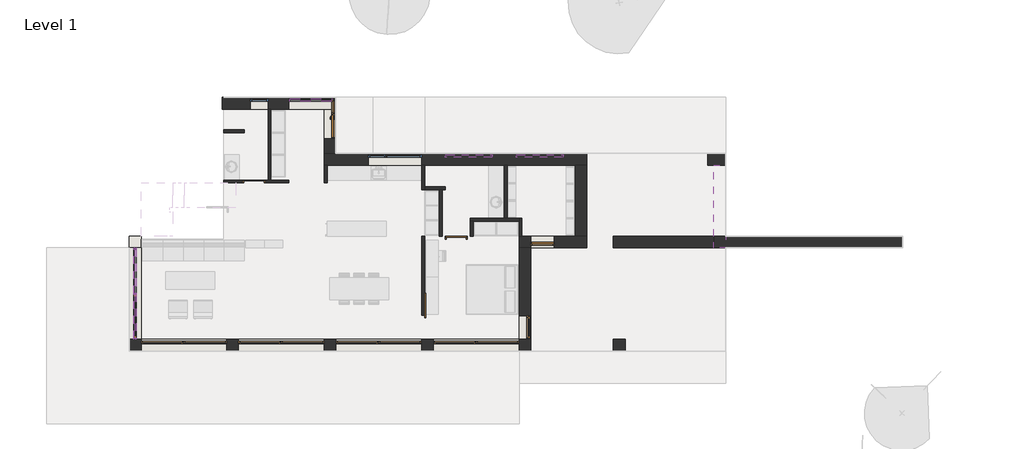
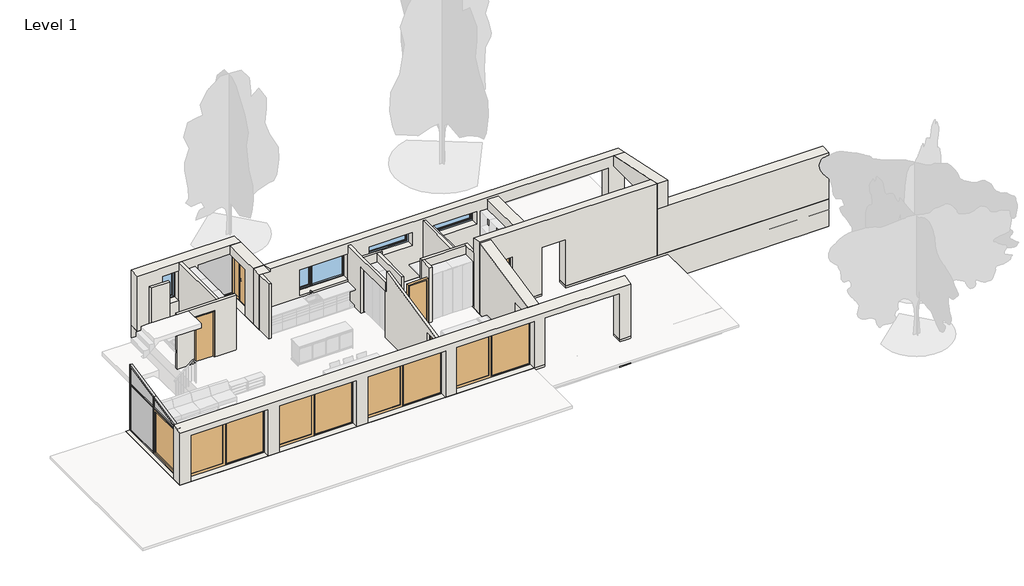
# One storey, part 1 of 2: 31 walls, 16 members, 11 doors, 5 plates, 4 windows.
"""IFC4 building model written with IfcOpenShell, lengths in millimetres."""

from ifc_helpers import new_model, si_unit, frame, origin, origin_with_axes, place, context, project, spatial, polyline, outline, extrude, faceted_brep, transform, mapped, element, save
from components import door_1560x2200_mm_08e78651, cw_ext_sliding_door_glass_cw_ext_sliding_door_glass_fc66a621, ext_single_flush_960x2200_mm_918893a4, ext_single_flush_out_glass_960x2200_mm_15830432, ext_sliding_door_window_assembly_glass_3480x2200_mm_6c81b4e4, int_single_flush_900x2200_mm_58b118df, int_single_flush_900x2200_mm_8e8544e1, int_sliding_door_on_wall_m9_x22_8b50374d, rectangular_mullion_exterior_115x115mm_a364345c, rectangular_mullion_exterior_50x115mm_2cea3e43, rectangular_mullion_exterior_50x115mm_d26d7a7f, rectangular_mullion_exterior_50x115mm_66d0e140, rectangular_mullion_exterior_50x115mm_0bbc0ca7, rectangular_mullion_exterior_50x115mm_4f10aaa5, rectangular_mullion_exterior_50x115mm_637f70d5, rectangular_mullion_exterior_50x115mm_56454b0a, rectangular_mullion_exterior_50x115mm_14035550, rectangular_mullion_exterior_50x115mm_69c7e964, rectangular_mullion_exterior_50x115mm_8fb64012, empty_system_panel_empty_d53b2e3b, system_panel_exterior_glass_22mm_2c8f2951, system_panel_exterior_glass_22mm_213b490c, system_panel_exterior_glass_22mm_7220da71, system_panel_exterior_glass_22mm_7fe7f60a, single_light_720x1400_mm_b30d6d94, single_light_top_hung_1920x600_mm_50622a2d, window_assembly_individual_2160x1200_mm_64654f8e

model = new_model("IFC4")

# Units and contexts
model_context = context("Model", 3, world=origin())
ifc_project = project(units=[si_unit("LENGTHUNIT", "METRE", prefix="MILLI")], contexts=[model_context])

# Site, building, storey
site = spatial("IfcSite", under=ifc_project)
building = spatial("IfcBuilding", under=site)
storey = spatial("IfcBuildingStorey", under=building, Name="Level 1", Elevation=0.0)

# Doors
placement = place(None, origin())
door_1560x2200_mm_shape = door_1560x2200_mm_08e78651(model_context)
element("IfcDoor", 1, ObjectType="Ext. Door inw. Window Assembly : 1560x2200 mm", at=placement, inside=storey, context=model_context, shape_type="MappedRepresentation", body=[
    mapped(door_1560x2200_mm_shape, transform((12120.0, 9060.0, 0.0), x_axis=(0.0, -1.0, 0.0), y_axis=(1.0, 0.0, 0.0), z_axis=(0.0, 0.0, 1.0))),
])
cw_ext_sliding_door_glass_cw_ext_sliding_door_glass_shape = cw_ext_sliding_door_glass_cw_ext_sliding_door_glass_fc66a621(model_context)
element("IfcDoor", 2, ObjectType="CW Ext. Sliding Door - Glass : CW Ext. Sliding Door - Glass", at=placement, inside=storey, context=model_context, shape_type="MappedRepresentation", body=[
    mapped(cw_ext_sliding_door_glass_cw_ext_sliding_door_glass_shape, transform((4140.0, 1062.5, 50.0), x_axis=(0.0, 1.0, 0.0), y_axis=(-1.0, 0.0, 0.0), z_axis=(0.0, 0.0, 1.0))),
])
ext_single_flush_960x2200_mm_shape = ext_single_flush_960x2200_mm_918893a4(model_context)
element("IfcDoor", 3, ObjectType="Ext. Single-Flush : 960x2200 mm", at=placement, inside=storey, context=model_context, shape_type="MappedRepresentation", body=[
    mapped(ext_single_flush_960x2200_mm_shape, transform((20760.0, 4080.0, 0.0), x_axis=(-1.0, 0.0, 0.0), y_axis=(0.0, -1.0, 0.0), z_axis=(0.0, 0.0, 1.0))),
])
ext_single_flush_out_glass_960x2200_mm_shape = ext_single_flush_out_glass_960x2200_mm_15830432(model_context)
element("IfcDoor", 4, ObjectType="Ext. Single-Flush out - Glass : 960x2200 mm", at=placement, inside=storey, context=model_context, shape_type="MappedRepresentation", body=[
    mapped(ext_single_flush_out_glass_960x2200_mm_shape, transform((20040.0, 600.0, 0.0), x_axis=(0.0, -1.0, 0.0), y_axis=(1.0, 0.0, 0.0), z_axis=(0.0, 0.0, 1.0))),
])
ext_sliding_door_window_assembly_glass_3480x2200_mm_shape = ext_sliding_door_window_assembly_glass_3480x2200_mm_6c81b4e4(model_context)
element("IfcDoor", 5, ObjectType="Ext. Sliding Door Window Assembly - Glass : 3480x2200 mm", at=placement, inside=storey, context=model_context, shape_type="MappedRepresentation", body=[
    mapped(ext_sliding_door_window_assembly_glass_3480x2200_mm_shape, transform((10140.0, -120.0, 0.0), x_axis=(-1.0, 0.0, 0.0), y_axis=(0.0, -1.0, 0.0), z_axis=(0.0, 0.0, 1.0))),
])
element("IfcDoor", 6, ObjectType="Ext. Sliding Door Window Assembly - Glass : 3480x2200 mm", at=placement, inside=storey, context=model_context, shape_type="MappedRepresentation", body=[
    mapped(ext_sliding_door_window_assembly_glass_3480x2200_mm_shape, transform((6180.0, -120.0, 0.0), x_axis=(-1.0, 0.0, 0.0), y_axis=(0.0, -1.0, 0.0), z_axis=(0.0, 0.0, 1.0))),
])
element("IfcDoor", 7, ObjectType="Ext. Sliding Door Window Assembly - Glass : 3480x2200 mm", at=placement, inside=storey, context=model_context, shape_type="MappedRepresentation", body=[
    mapped(ext_sliding_door_window_assembly_glass_3480x2200_mm_shape, transform((14100.0, -120.0, 0.0), x_axis=(-1.0, 0.0, 0.0), y_axis=(0.0, -1.0, 0.0), z_axis=(0.0, 0.0, 1.0))),
])
element("IfcDoor", 8, ObjectType="Ext. Sliding Door Window Assembly - Glass : 3480x2200 mm", at=placement, inside=storey, context=model_context, shape_type="MappedRepresentation", body=[
    mapped(ext_sliding_door_window_assembly_glass_3480x2200_mm_shape, transform((18060.0, -120.0, 0.0), x_axis=(-1.0, 0.0, 0.0), y_axis=(0.0, -1.0, 0.0), z_axis=(0.0, 0.0, 1.0))),
])
int_single_flush_900x2200_mm_shape = int_single_flush_900x2200_mm_58b118df(model_context)
element("IfcDoor", 9, ObjectType="Int. Single-Flush : 900x2200 mm", at=placement, inside=storey, context=model_context, shape_type="MappedRepresentation", body=[
    mapped(int_single_flush_900x2200_mm_shape, transform((9030.0, 6540.0, 0.0), x_axis=(1.0, 0.0, 0.0), y_axis=(0.0, 1.0, 0.0), z_axis=(0.0, 0.0, 1.0))),
])
int_single_flush_900x2200_mm_2_shape = int_single_flush_900x2200_mm_8e8544e1(model_context)
element("IfcDoor", 10, ObjectType="Int. Single-Flush : 900x2200 mm", at=placement, inside=storey, context=model_context, shape_type="MappedRepresentation", body=[
    mapped(int_single_flush_900x2200_mm_2_shape, transform((17250.0, 4260.0, 0.0), x_axis=(-1.0, 0.0, 0.0), y_axis=(0.0, -1.0, 0.0), z_axis=(0.0, 0.0, 1.0))),
])
int_sliding_door_on_wall_m9_x22_shape = int_sliding_door_on_wall_m9_x22_8b50374d(model_context)
element("IfcDoor", 11, ObjectType="Int. Sliding Door on wall : M9 x22", at=placement, inside=storey, context=model_context, shape_type="MappedRepresentation", body=[
    mapped(int_sliding_door_on_wall_m9_x22_shape, transform((15850.0, 624.0, 0.0), x_axis=(0.0, -1.0, 0.0), y_axis=(1.0, 0.0, 0.0), z_axis=(0.0, 0.0, 1.0))),
])

# Members
rectangular_mullion_exterior_115x115mm_shape = rectangular_mullion_exterior_115x115mm_a364345c(model_context)
element("IfcMember", 12, ObjectType="Rectangular Mullion : Exterior - 115x115mm", at=placement, inside=storey, context=model_context, shape_type="MappedRepresentation", body=[
    mapped(rectangular_mullion_exterior_115x115mm_shape, transform((12252.5, 9910.0, 0.0), x_axis=(1.0, 0.0, 0.0), y_axis=(0.0, -1.0, 0.0), z_axis=(0.0, 0.0, -1.0))),
])
rectangular_mullion_exterior_50x115mm_shape = rectangular_mullion_exterior_50x115mm_2cea3e43(model_context)
element("IfcMember", 13, ObjectType="Rectangular Mullion : Exterior - 50x115mm", at=placement, inside=storey, context=model_context, shape_type="MappedRepresentation", body=[
    mapped(rectangular_mullion_exterior_50x115mm_shape, transform((4140.0, 3840.0, 0.0), x_axis=(0.0, 1.0, 0.0), y_axis=(1.0, 0.0, 0.0), z_axis=(0.0, 0.0, -1.0))),
])
element("IfcMember", 14, ObjectType="Rectangular Mullion : Exterior - 50x115mm", at=placement, inside=storey, context=model_context, shape_type="MappedRepresentation", body=[
    mapped(rectangular_mullion_exterior_50x115mm_shape, transform((4140.0, 120.0, 2200.0), x_axis=(0.0, -1.0, 0.0), y_axis=(1.0, 0.0, 0.0), z_axis=(0.0, 0.0, 1.0))),
])
rectangular_mullion_exterior_50x115mm_2_shape = rectangular_mullion_exterior_50x115mm_d26d7a7f(model_context)
element("IfcMember", 15, ObjectType="Rectangular Mullion : Exterior - 50x115mm", at=placement, inside=storey, context=model_context, shape_type="MappedRepresentation", body=[
    mapped(rectangular_mullion_exterior_50x115mm_2_shape, transform((4140.0, 1980.0, 50.0), x_axis=(0.0, 1.0, 0.0), y_axis=(1.0, 0.0, 0.0), z_axis=(0.0, 0.0, -1.0))),
])
element("IfcMember", 16, ObjectType="Rectangular Mullion : Exterior - 50x115mm", at=placement, inside=storey, context=model_context, shape_type="MappedRepresentation", body=[
    mapped(rectangular_mullion_exterior_50x115mm_shape, transform((10440.0, 9910.0, 2200.0), x_axis=(-1.0, 0.0, 0.0), y_axis=(0.0, -1.0, 0.0), z_axis=(0.0, 0.0, 1.0))),
])
rectangular_mullion_exterior_50x115mm_3_shape = rectangular_mullion_exterior_50x115mm_66d0e140(model_context)
element("IfcMember", 17, ObjectType="Rectangular Mullion : Exterior - 50x115mm", at=placement, inside=storey, context=model_context, shape_type="MappedRepresentation", body=[
    mapped(rectangular_mullion_exterior_50x115mm_3_shape, transform((12195.0, 9910.0, 2200.0), x_axis=(0.0, 0.0, 1.0), y_axis=(0.0, -1.0, 0.0), z_axis=(1.0, 0.0, 0.0))),
])
element("IfcMember", 18, ObjectType="Rectangular Mullion : Exterior - 50x115mm", at=placement, inside=storey, context=model_context, shape_type="MappedRepresentation", body=[
    mapped(rectangular_mullion_exterior_50x115mm_3_shape, transform((10490.0, 9910.0, 0.0), x_axis=(0.0, 0.0, -1.0), y_axis=(0.0, -1.0, 0.0), z_axis=(-1.0, 0.0, 0.0))),
])
rectangular_mullion_exterior_50x115mm_4_shape = rectangular_mullion_exterior_50x115mm_0bbc0ca7(model_context)
element("IfcMember", 19, ObjectType="Rectangular Mullion : Exterior - 50x115mm", at=placement, inside=storey, context=model_context, shape_type="MappedRepresentation", body=[
    mapped(rectangular_mullion_exterior_50x115mm_4_shape, transform((4140.0, 1980.0, 0.0), x_axis=(0.0, 0.0, -1.0), y_axis=(1.0, 0.0, 0.0), z_axis=(0.0, -1.0, 0.0))),
])
element("IfcMember", 20, ObjectType="Rectangular Mullion : Exterior - 50x115mm", at=placement, inside=storey, context=model_context, shape_type="MappedRepresentation", body=[
    mapped(rectangular_mullion_exterior_50x115mm_4_shape, transform((4140.0, 170.0, 0.0), x_axis=(0.0, 0.0, -1.0), y_axis=(1.0, 0.0, 0.0), z_axis=(0.0, -1.0, 0.0))),
])
rectangular_mullion_exterior_50x115mm_5_shape = rectangular_mullion_exterior_50x115mm_4f10aaa5(model_context)
element("IfcMember", 21, ObjectType="Rectangular Mullion : Exterior - 50x115mm", at=placement, inside=storey, context=model_context, shape_type="MappedRepresentation", body=[
    mapped(rectangular_mullion_exterior_50x115mm_5_shape, transform((4140.0, 1955.0, 2200.0), x_axis=(0.0, 0.0, 1.0), y_axis=(1.0, 0.0, 0.0), z_axis=(0.0, 1.0, 0.0))),
])
element("IfcMember", 22, ObjectType="Rectangular Mullion : Exterior - 50x115mm", at=placement, inside=storey, context=model_context, shape_type="MappedRepresentation", body=[
    mapped(rectangular_mullion_exterior_50x115mm_5_shape, transform((4140.0, 3790.0, 2200.0), x_axis=(0.0, 0.0, 1.0), y_axis=(1.0, 0.0, 0.0), z_axis=(0.0, 1.0, 0.0))),
])
rectangular_mullion_exterior_50x115mm_6_shape = rectangular_mullion_exterior_50x115mm_637f70d5(model_context)
element("IfcMember", 23, ObjectType="Rectangular Mullion : Exterior - 50x115mm", at=placement, inside=storey, context=model_context, shape_type="MappedRepresentation", body=[
    mapped(rectangular_mullion_exterior_50x115mm_6_shape, transform((4140.0, 1980.0, 2200.0), x_axis=(0.0, 1.0, 0.0), y_axis=(1.0, 0.0, 0.0), z_axis=(0.0, 0.0, -1.0))),
])
rectangular_mullion_exterior_50x115mm_7_shape = rectangular_mullion_exterior_50x115mm_56454b0a(model_context)
element("IfcMember", 24, ObjectType="Rectangular Mullion : Exterior - 50x115mm", at=placement, inside=storey, context=model_context, shape_type="MappedRepresentation", body=[
    mapped(rectangular_mullion_exterior_50x115mm_7_shape, transform((4140.0, 1980.0, 2711.8424549), x_axis=(0.0, -0.20791169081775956, 0.9781476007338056), y_axis=(1.0, 0.0, 0.0), z_axis=(0.0, 0.9781476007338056, 0.20791169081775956))),
])
rectangular_mullion_exterior_50x115mm_8_shape = rectangular_mullion_exterior_50x115mm_14035550(model_context)
element("IfcMember", 25, ObjectType="Rectangular Mullion : Exterior - 50x115mm", at=placement, inside=storey, context=model_context, shape_type="MappedRepresentation", body=[
    mapped(rectangular_mullion_exterior_50x115mm_8_shape, transform((4140.0, 3840.0, 3107.1976596), x_axis=(0.0, -0.2079116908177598, 0.9781476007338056), y_axis=(1.0, 0.0, 0.0), z_axis=(0.0, 0.9781476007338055, 0.20791169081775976))),
])
rectangular_mullion_exterior_50x115mm_9_shape = rectangular_mullion_exterior_50x115mm_69c7e964(model_context)
element("IfcMember", 26, ObjectType="Rectangular Mullion : Exterior - 50x115mm", at=placement, inside=storey, context=model_context, shape_type="MappedRepresentation", body=[
    mapped(rectangular_mullion_exterior_50x115mm_9_shape, transform((4140.0, 120.0, 2316.4872502), x_axis=(0.0, -1.0, 0.0), y_axis=(1.0, 0.0, 0.0), z_axis=(0.0, 0.0, 1.0))),
])
rectangular_mullion_exterior_50x115mm_10_shape = rectangular_mullion_exterior_50x115mm_8fb64012(model_context)
element("IfcMember", 27, ObjectType="Rectangular Mullion : Exterior - 50x115mm", at=placement, inside=storey, context=model_context, shape_type="MappedRepresentation", body=[
    mapped(rectangular_mullion_exterior_50x115mm_10_shape, transform((4140.0, 3840.0, 2200.0), x_axis=(0.0, 1.0, 0.0), y_axis=(1.0, 0.0, 0.0), z_axis=(0.0, 0.0, -1.0))),
])

# Plates
empty_system_panel_empty_shape = empty_system_panel_empty_d53b2e3b(model_context)
element("IfcPlate", 28, ObjectType="Empty System Panel : Empty", at=placement, inside=storey, context=model_context, shape_type="MappedRepresentation", body=[
    mapped(empty_system_panel_empty_shape, transform((12335.0, 9910.0, 0.0), x_axis=(1.0, 0.0, 0.0), y_axis=(0.0, 1.0, 0.0), z_axis=(0.0, 0.0, 1.0))),
])
system_panel_exterior_glass_22mm_shape = system_panel_exterior_glass_22mm_2c8f2951(model_context)
element("IfcPlate", 29, ObjectType="System Panel : Exterior - Glass 22mm", at=placement, inside=storey, context=model_context, shape_type="MappedRepresentation", body=[
    mapped(system_panel_exterior_glass_22mm_shape, transform((11342.5, 9910.0, 50.0), x_axis=(1.0, 0.0, 0.0), y_axis=(0.0, 1.0, 0.0), z_axis=(0.0, 0.0, 1.0))),
])
system_panel_exterior_glass_22mm_2_shape = system_panel_exterior_glass_22mm_213b490c(model_context)
element("IfcPlate", 30, ObjectType="System Panel : Exterior - Glass 22mm", at=placement, inside=storey, context=model_context, shape_type="MappedRepresentation", body=[
    mapped(system_panel_exterior_glass_22mm_2_shape, transform((4140.0, 1062.5, 2225.0), x_axis=(0.0, 1.0, 0.0), y_axis=(-1.0, 0.0, 0.0), z_axis=(0.0, 0.0, 1.0))),
])
system_panel_exterior_glass_22mm_3_shape = system_panel_exterior_glass_22mm_7220da71(model_context)
element("IfcPlate", 31, ObjectType="System Panel : Exterior - Glass 22mm", at=placement, inside=storey, context=model_context, shape_type="MappedRepresentation", body=[
    mapped(system_panel_exterior_glass_22mm_3_shape, transform((4140.0, 2897.5, 50.0), x_axis=(0.0, 1.0, 0.0), y_axis=(-1.0, 0.0, 0.0), z_axis=(0.0, 0.0, 1.0))),
])
system_panel_exterior_glass_22mm_4_shape = system_panel_exterior_glass_22mm_7fe7f60a(model_context)
element("IfcPlate", 32, ObjectType="System Panel : Exterior - Glass 22mm", at=placement, inside=storey, context=model_context, shape_type="MappedRepresentation", body=[
    mapped(system_panel_exterior_glass_22mm_4_shape, transform((4140.0, 2897.5, 2225.0), x_axis=(0.0, 1.0, 0.0), y_axis=(-1.0, 0.0, 0.0), z_axis=(0.0, 0.0, 1.0))),
])

# Walls
element("IfcWall", 33, ObjectType="Generic - 120mm (Interior)", at=placement, inside=storey, context=model_context, shape_type="Brep", body=[
    faceted_brep([(9720.0, 6600.0, 0.0), (9720.0, 9480.0, 0.0), (9720.0, 9480.0, 2600.0), (9720.0, 6600.0, 2600.0), (9600.0, 6600.0, 0.0), (9600.0, 6600.0, 2600.0), (9600.0, 9480.0, 2600.0), (9600.0, 9480.0, 2200.0), (9600.0, 9480.0, 800.0), (9600.0, 9480.0, 0.0)], [[[0, 1, 2, 3]], [[4, 5, 6, 7, 8, 9]], [[1, 0, 4, 9]], [[3, 2, 6, 5]], [[2, 1, 9, 8, 7, 6]], [[0, 3, 5, 4]]]),
])
element("IfcWall", 34, ObjectType="Generic - 120mm (Interior)", at=placement, inside=storey, context=model_context, shape_type="Brep", body=[
    faceted_brep([(15960.0, 7200.0, 0.0), (15960.0, 7200.0, 2600.0), (15960.0, 6320.0, 2600.0), (15960.0, 6200.0, 2600.0), (15960.0, 4320.0, 2600.0), (15960.0, 4320.0, 2200.0), (15960.0, 6200.0, 2200.0), (15960.0, 6200.0, 0.0), (15960.0, 6320.0, 0.0), (15960.0, 120.0, 2212.0), (15960.0, 1104.0, 2212.0), (15960.0, 1104.0, 0.0), (15960.0, 4200.0, 0.0), (15960.0, 4320.0, 0.0), (15960.0, 4200.0, 2200.0), (15960.0, 4200.0, 3183.7180218), (15960.0, 120.0, 2316.4872502), (15840.0, 7200.0, 2600.0), (15840.0, 7200.0, 2200.0), (15840.0, 7200.0, 1000.0), (15840.0, 7200.0, 0.0), (15840.0, 6200.0, 0.0), (15840.0, 6200.0, 2200.0), (15840.0, 4320.0, 2200.0), (15840.0, 4320.0, 2600.0), (15840.0, 4320.0, 0.0), (15840.0, 1104.0, 0.0), (15840.0, 1104.0, 2212.0), (15840.0, 120.0, 2212.0), (15840.0, 120.0, 2316.4872502), (15840.0, 4200.0, 3183.7180218), (15840.0, 4200.0, 2200.0)], [[[0, 1, 2, 3, 4, 5, 6, 7, 8]], [[9, 10, 11, 12, 13, 5, 14, 15, 16]], [[17, 18, 19, 20, 21, 22, 23, 24]], [[25, 26, 27, 28, 29, 30, 31, 23]], [[1, 0, 20, 19, 18, 17]], [[27, 10, 9, 28]], [[10, 27, 26, 11]], [[9, 16, 29, 28]], [[23, 5, 4, 24]], [[5, 23, 31, 14]], [[26, 25, 13, 12, 11]], [[6, 5, 23, 22]], [[0, 8, 7, 21, 20]], [[5, 13, 25, 23]], [[7, 6, 22, 21]], [[1, 17, 24, 4, 3, 2]], [[30, 15, 14, 31]], [[29, 16, 15, 30]]]),
])
element("IfcWall", 35, ObjectType="Generic - 120mm (Interior)", at=placement, inside=storey, context=model_context, shape_type="Brep", body=[
    faceted_brep([(19800.0, 5040.0, 0.0), (19800.0, 4920.0, 0.0), (19800.0, 4320.0, 0.0), (19800.0, 4320.0, 2600.0), (19800.0, 4920.0, 2600.0), (19800.0, 5040.0, 2600.0), (19920.0, 5040.0, 0.0), (19920.0, 5040.0, 2600.0), (19920.0, 4320.0, 2600.0), (19920.0, 4320.0, 0.0)], [[[0, 1, 2, 3, 4, 5]], [[6, 7, 8, 9]], [[2, 1, 0, 6, 9]], [[5, 4, 3, 8, 7]], [[3, 2, 9, 8]], [[0, 5, 7, 6]]]),
])
element("IfcWall", 36, ObjectType="Generic - 120mm (Interior)", at=placement, inside=storey, context=model_context, shape_type="SweptSolid", body=[
    extrude(outline(polyline([(19320.0, 7200.0), (19320.0, 5040.0), (19200.0, 5040.0), (19200.0, 7200.0), (19320.0, 7200.0)])), origin_with_axes(), (0.0, 0.0, 1.0), 2600.0),
])
element("IfcWall", 37, ObjectType="Generic - 120mm (Interior)", at=placement, inside=storey, context=model_context, shape_type="SweptSolid", body=[
    extrude(outline(polyline([(8640.0, 8520.0), (7800.0, 8520.0), (7800.0, 8640.0), (8640.0, 8640.0), (8640.0, 8520.0)])), origin_with_axes(), (0.0, 0.0, 1.0), 2600.0),
])
element("IfcWall", 38, ObjectType="Generic - 120mm (Interior)", at=placement, inside=storey, context=model_context, shape_type="SweptSolid", body=[
    extrude(outline(polyline([(11880.0, 6480.0), (11880.0, 7200.0), (12000.0, 7200.0), (12000.0, 6480.0), (11880.0, 6480.0)])), origin_with_axes(), (0.0, 0.0, 1.0), 2600.0),
])
element("IfcWall", 39, ObjectType="Generic - 120mm (Interior)", at=placement, inside=storey, context=model_context, shape_type="Brep", body=[
    faceted_brep([(10440.0, 6480.0, 0.0), (10440.0, 6480.0, 2600.0), (8400.0, 6480.0, 2600.0), (7800.0, 6480.0, 2600.0), (7800.0, 6480.0, 2000.0), (7800.0, 6480.0, 1700.0), (7800.0, 6480.0, 0.0), (8580.0, 6480.0, 0.0), (8580.0, 6480.0, 2200.0), (9480.0, 6480.0, 2200.0), (9480.0, 6480.0, 0.0), (10440.0, 6600.0, 2600.0), (10440.0, 6600.0, 0.0), (9720.0, 6600.0, 0.0), (9600.0, 6600.0, 0.0), (9480.0, 6600.0, 0.0), (9480.0, 6600.0, 2200.0), (8580.0, 6600.0, 2200.0), (8580.0, 6600.0, 0.0), (7800.0, 6600.0, 0.0), (7800.0, 6600.0, 1700.0), (7800.0, 6600.0, 2000.0), (7800.0, 6600.0, 2600.0), (8400.0, 6600.0, 2600.0), (9600.0, 6600.0, 2600.0), (9720.0, 6600.0, 2600.0)], [[[0, 1, 2, 3, 4, 5, 6, 7, 8, 9, 10]], [[11, 12, 13, 14, 15, 16, 17, 18, 19, 20, 21, 22, 23, 24, 25]], [[12, 0, 10, 15, 14, 13]], [[6, 19, 18, 7]], [[1, 0, 12, 11]], [[3, 2, 1, 11, 25, 24, 23, 22]], [[9, 16, 15, 10]], [[16, 9, 8, 17]], [[17, 8, 7, 18]], [[19, 6, 5, 4, 3, 22, 21, 20]]]),
])
element("IfcWall", 40, ObjectType="Generic - 120mm (Interior)", at=placement, inside=storey, context=model_context, shape_type="Brep", body=[
    faceted_brep([(19800.0, 5040.0, 0.0), (19320.0, 5040.0, 0.0), (19200.0, 5040.0, 0.0), (17820.0, 5040.0, 0.0), (17820.0, 5040.0, 2600.0), (19200.0, 5040.0, 2600.0), (19320.0, 5040.0, 2600.0), (19800.0, 5040.0, 2600.0), (19800.0, 4920.0, 0.0), (19800.0, 4920.0, 2600.0), (17940.0, 4920.0, 2600.0), (17820.0, 4920.0, 2600.0), (17820.0, 4920.0, 0.0), (17940.0, 4920.0, 0.0)], [[[0, 1, 2, 3, 4, 5, 6, 7]], [[8, 9, 10, 11, 12, 13]], [[3, 2, 1, 0, 8, 13, 12]], [[7, 6, 5, 4, 11, 10, 9]], [[0, 7, 9, 8]], [[4, 3, 12, 11]]]),
])
element("IfcWall", 41, ObjectType="Generic - 120mm (Interior)", at=placement, inside=storey, context=model_context, shape_type="Brep", body=[
    faceted_brep([(17820.0, 4920.0, 0.0), (17820.0, 4320.0, 0.0), (17820.0, 4320.0, 2600.0), (17820.0, 4920.0, 2600.0), (17940.0, 4920.0, 0.0), (17940.0, 4920.0, 2600.0), (17940.0, 4320.0, 2600.0), (17940.0, 4320.0, 2200.0), (17940.0, 4320.0, 0.0)], [[[0, 1, 2, 3]], [[4, 5, 6, 7, 8]], [[1, 0, 4, 8]], [[3, 2, 6, 5]], [[0, 3, 5, 4]], [[1, 8, 7, 6, 2]]]),
])
element("IfcWall", 42, ObjectType="Generic - 120mm (Interior)", at=placement, inside=storey, context=model_context, shape_type="SweptSolid", body=[
    extrude(outline(polyline([(16680.0, 6200.0), (16680.0, 4320.0), (16560.0, 4320.0), (16560.0, 6200.0), (16680.0, 6200.0)])), origin_with_axes(), (0.0, 0.0, 1.0), 2600.0),
])
element("IfcWall", 43, ObjectType="Generic - 120mm (Interior)", at=placement, inside=storey, context=model_context, shape_type="Brep", body=[
    faceted_brep([(15960.0, 6200.0, 2600.0), (15960.0, 6200.0, 2200.0), (15960.0, 6200.0, 0.0), (16560.0, 6200.0, 0.0), (16680.0, 6200.0, 0.0), (16800.0, 6200.0, 0.0), (16800.0, 6200.0, 2600.0), (16680.0, 6200.0, 2600.0), (16560.0, 6200.0, 2600.0), (15960.0, 6320.0, 0.0), (15960.0, 6320.0, 2600.0), (16800.0, 6320.0, 2600.0), (16800.0, 6320.0, 0.0)], [[[0, 1, 2, 3, 4, 5, 6, 7, 8]], [[9, 10, 11, 12]], [[5, 4, 3, 2, 9, 12]], [[6, 5, 12, 11]], [[0, 8, 7, 6, 11, 10]], [[0, 10, 9, 2, 1]]]),
])
element("IfcWall", 44, ObjectType="Generic - 480mm (Exterior)", at=placement, inside=storey, context=model_context, shape_type="Brep", body=[
    faceted_brep([(11880.0, 7680.0, 2600.0), (11880.0, 8280.0, 2600.0), (11880.0, 9480.0, 2600.0), (11880.0, 9480.0, 2200.0), (11880.0, 8280.0, 2200.0), (11880.0, 8280.0, 0.0), (11880.0, 7680.0, 0.0), (12360.0, 9480.0, 2600.0), (12360.0, 8280.0, 2600.0), (12360.0, 7680.0, 2600.0), (12360.0, 7680.0, 0.0), (12360.0, 8280.0, 0.0), (12360.0, 8280.0, 2200.0), (12360.0, 9480.0, 2200.0)], [[[0, 1, 2, 3, 4, 5, 6]], [[7, 8, 9, 10, 11, 12, 13]], [[10, 6, 5, 11]], [[2, 1, 0, 9, 8, 7]], [[2, 7, 13, 3]], [[0, 6, 10, 9]], [[12, 4, 3, 13]], [[4, 12, 11, 5]]]),
])
element("IfcWall", 45, ObjectType="Generic - 480mm (Exterior)", at=placement, inside=storey, context=model_context, shape_type="Brep", body=[
    faceted_brep([(22080.0, 7200.0, 2600.0), (22080.0, 7200.0, 0.0), (22080.0, 4320.0, 0.0), (22080.0, 4320.0, 2600.0), (22560.0, 7200.0, 0.0), (22560.0, 7200.0, 2200.0), (22560.0, 7200.0, 2600.0), (22560.0, 4320.0, 2600.0), (22560.0, 4320.0, 2200.0), (22560.0, 4320.0, 0.0)], [[[0, 1, 2, 3]], [[4, 5, 6, 7, 8, 9]], [[2, 1, 4, 9]], [[0, 3, 7, 6]], [[0, 6, 5, 4, 1]], [[3, 2, 9, 8, 7]]]),
])
element("IfcWall", 46, ObjectType="Generic - 480mm (Exterior)", at=placement, inside=storey, context=model_context, shape_type="Brep", body=[
    faceted_brep([(19800.0, 3840.0, 3362.7828084), (19800.0, 3840.0, 0.0), (19800.0, 1080.0, 0.0), (19800.0, 1080.0, 2200.0), (19800.0, 120.0, 2200.0), (19800.0, 120.0, 2572.0723989), (20280.0, 3840.0, 0.0), (20280.0, 3840.0, 2200.0), (20280.0, 3840.0, 3362.7828084), (20280.0, 120.0, 2572.0723989), (20280.0, 120.0, 2200.0), (20280.0, 1080.0, 2200.0), (20280.0, 1080.0, 0.0)], [[[0, 1, 2, 3, 4, 5]], [[6, 7, 8, 9, 10, 11, 12]], [[1, 6, 12, 2]], [[3, 11, 10, 4]], [[11, 3, 2, 12]], [[1, 0, 8, 7, 6]], [[9, 5, 4, 10]], [[0, 5, 9, 8]]]),
])
element("IfcWall", 47, ObjectType="Generic - 480mm (Exterior)", at=placement, inside=storey, context=model_context, shape_type="Brep", body=[
    faceted_brep([(22560.0, 7200.0, 2200.0), (27480.0, 7200.0, 2200.0), (27480.0, 7200.0, 0.0), (28200.0, 7200.0, 0.0), (28200.0, 7200.0, 2200.0), (28200.0, 7200.0, 2702.0271496), (27720.0, 7200.0, 2702.0271496), (12360.0, 7200.0, 2702.0271496), (12360.0, 7200.0, 2600.0), (12000.0, 7200.0, 2600.0), (11880.0, 7200.0, 2600.0), (11880.0, 7200.0, 0.0), (12000.0, 7200.0, 0.0), (15840.0, 7200.0, 0.0), (15960.0, 7200.0, 0.0), (19200.0, 7200.0, 0.0), (19320.0, 7200.0, 0.0), (22080.0, 7200.0, 0.0), (22560.0, 7200.0, 0.0), (16800.0, 7200.0, 1600.0), (16800.0, 7200.0, 2200.0), (18720.0, 7200.0, 2200.0), (18720.0, 7200.0, 1600.0), (19680.0, 7200.0, 1600.0), (19680.0, 7200.0, 2200.0), (21600.0, 7200.0, 2200.0), (21600.0, 7200.0, 1600.0), (15840.0, 7200.0, 2200.0), (15840.0, 7200.0, 1000.0), (13680.0, 7200.0, 1000.0), (13680.0, 7200.0, 2200.0), (27480.0, 7680.0, 2200.0), (22560.0, 7680.0, 2200.0), (22560.0, 7680.0, 0.0), (12360.0, 7680.0, 0.0), (11880.0, 7680.0, 0.0), (11880.0, 7680.0, 2600.0), (12360.0, 7680.0, 2600.0), (28200.0, 7680.0, 2600.0), (28200.0, 7680.0, 0.0), (27480.0, 7680.0, 0.0), (15840.0, 7680.0, 1000.0), (15840.0, 7680.0, 2200.0), (13680.0, 7680.0, 2200.0), (13680.0, 7680.0, 1000.0), (16800.0, 7680.0, 2200.0), (16800.0, 7680.0, 1600.0), (18720.0, 7680.0, 1600.0), (18720.0, 7680.0, 2200.0), (19680.0, 7680.0, 2200.0), (19680.0, 7680.0, 1600.0), (21600.0, 7680.0, 1600.0), (21600.0, 7680.0, 2200.0)], [[[0, 1, 2, 3, 4, 5, 6, 7, 8, 9, 10, 11, 12, 13, 14, 15, 16, 17, 18], [19, 20, 21, 22], [23, 24, 25, 26], [27, 28, 29, 30]], [[31, 32, 33, 34, 35, 36, 37, 38, 39, 40], [41, 42, 43, 44], [45, 46, 47, 48], [49, 50, 51, 52]], [[1, 0, 32, 31]], [[2, 1, 31, 40]], [[3, 2, 40, 39]], [[18, 17, 16, 15, 14, 13, 12, 11, 35, 34, 33]], [[0, 18, 33, 32]], [[41, 28, 27, 42]], [[42, 27, 30, 43]], [[43, 30, 29, 44]], [[28, 41, 44, 29]], [[19, 46, 45, 20]], [[20, 45, 48, 21]], [[21, 48, 47, 22]], [[46, 19, 22, 47]], [[23, 50, 49, 24]], [[24, 49, 52, 25]], [[25, 52, 51, 26]], [[50, 23, 26, 51]], [[5, 4, 3, 39, 38]], [[11, 10, 36, 35]], [[36, 10, 9, 8, 37]], [[37, 8, 7]], [[7, 6, 5, 38, 37]]]),
])
element("IfcWall", 48, ObjectType="Generic - 480mm (Exterior)", at=placement, inside=storey, context=model_context, shape_type="Brep", body=[
    faceted_brep([(27720.0, 7200.0, 2200.0), (27720.0, 4320.0, 2200.0), (27720.0, 3840.0, 2200.0), (27720.0, 3840.0, 3416.2171968), (27720.0, 4320.0, 3314.1900472), (27720.0, 7200.0, 2702.0271496), (28200.0, 7200.0, 2200.0), (28200.0, 7200.0, 2702.0271496), (28200.0, 3840.0, 3416.2171968), (28200.0, 3840.0, 2200.0)], [[[0, 1, 2, 3, 4, 5]], [[6, 7, 8, 9]], [[2, 1, 0, 6, 9]], [[0, 5, 7, 6]], [[3, 2, 9, 8]], [[5, 4, 3, 8, 7]]]),
])
element("IfcWall", 49, ObjectType="Generic - 480mm (Exterior)", at=placement, inside=storey, context=model_context, shape_type="Brep", body=[
    faceted_brep([(23640.0, 3840.0, 2200.0), (23640.0, 3840.0, 0.0), (27720.0, 3840.0, 0.0), (27720.0, 3840.0, 2200.0), (27720.0, 3840.0, 3416.2171968), (19800.0, 3840.0, 3416.2171968), (19800.0, 3840.0, 3362.7828084), (19800.0, 3840.0, 0.0), (20280.0, 3840.0, 0.0), (20280.0, 3840.0, 2200.0), (21240.0, 3840.0, 2200.0), (21240.0, 3840.0, 0.0), (22560.0, 3840.0, 0.0), (22560.0, 3840.0, 2200.0), (23640.0, 4320.0, 0.0), (23640.0, 4320.0, 2200.0), (22560.0, 4320.0, 2200.0), (22560.0, 4320.0, 0.0), (22080.0, 4320.0, 0.0), (21240.0, 4320.0, 0.0), (21240.0, 4320.0, 2200.0), (20280.0, 4320.0, 2200.0), (20280.0, 4320.0, 0.0), (19920.0, 4320.0, 0.0), (19800.0, 4320.0, 0.0), (19800.0, 4320.0, 2200.0), (19800.0, 4320.0, 2600.0), (19800.0, 4320.0, 3314.1900472), (27720.0, 4320.0, 3314.1900472), (27720.0, 4320.0, 2200.0), (27720.0, 4320.0, 0.0)], [[[0, 1, 2, 3, 4, 5, 6, 7, 8, 9, 10, 11, 12, 13]], [[14, 15, 16, 17, 18, 19, 20, 21, 22, 23, 24, 25, 26, 27, 28, 29, 30]], [[2, 1, 14, 30]], [[7, 24, 23, 22, 8]], [[17, 12, 11, 19, 18]], [[21, 9, 8, 22]], [[9, 21, 20, 10]], [[10, 20, 19, 11]], [[0, 15, 14, 1]], [[15, 0, 13, 16]], [[16, 13, 12, 17]], [[4, 3, 2, 30, 29, 28]], [[24, 7, 6, 5, 27, 26, 25]], [[5, 4, 28, 27]]]),
])
element("IfcWall", 50, ObjectType="Generic - 480mm (Exterior)", at=placement, inside=storey, context=model_context, shape_type="Brep", body=[
    faceted_brep([(27720.0, 3840.0, 0.0), (35400.0, 3840.0, 0.0), (35400.0, 3840.0, 2200.0), (28200.0, 3840.0, 2200.0), (27720.0, 3840.0, 2200.0), (27720.0, 4320.0, 0.0), (27720.0, 4320.0, 2200.0), (35400.0, 4320.0, 2200.0), (35400.0, 4320.0, 0.0)], [[[0, 1, 2, 3, 4]], [[5, 6, 7, 8]], [[1, 0, 5, 8]], [[2, 1, 8, 7]], [[4, 3, 2, 7, 6]], [[0, 4, 6, 5]]]),
])
element("IfcWall", 51, ObjectType="Generic - 480mm (Exterior)", at=placement, inside=storey, context=model_context, shape_type="Brep", body=[
    faceted_brep([(24120.0, 120.0, 0.0), (23640.0, 120.0, 0.0), (23640.0, 120.0, 2200.0), (20280.0, 120.0, 2200.0), (20280.0, 120.0, 0.0), (19800.0, 120.0, 0.0), (19800.0, 120.0, 2200.0), (16320.0, 120.0, 2200.0), (16320.0, 120.0, 0.0), (15840.0, 120.0, 0.0), (15840.0, 120.0, 2200.0), (12360.0, 120.0, 2200.0), (12360.0, 120.0, 0.0), (11880.0, 120.0, 0.0), (11880.0, 120.0, 2200.0), (8400.0, 120.0, 2200.0), (8400.0, 120.0, 0.0), (7920.0, 120.0, 0.0), (7920.0, 120.0, 2200.0), (4440.0, 120.0, 2200.0), (4440.0, 120.0, 0.0), (3960.0, 120.0, 0.0), (3960.0, 120.0, 2572.0723989), (19800.0, 120.0, 2572.0723989), (20280.0, 120.0, 2572.0723989), (24120.0, 120.0, 2572.0723989), (23640.0, -360.0, 0.0), (24120.0, -360.0, 0.0), (24120.0, -360.0, 2470.0452493), (3960.0, -360.0, 2470.0452493), (3960.0, -360.0, 0.0), (4440.0, -360.0, 0.0), (4440.0, -360.0, 2200.0), (7920.0, -360.0, 2200.0), (7920.0, -360.0, 0.0), (8400.0, -360.0, 0.0), (8400.0, -360.0, 2200.0), (11880.0, -360.0, 2200.0), (11880.0, -360.0, 0.0), (12360.0, -360.0, 0.0), (12360.0, -360.0, 2200.0), (15840.0, -360.0, 2200.0), (15840.0, -360.0, 0.0), (16320.0, -360.0, 0.0), (16320.0, -360.0, 2200.0), (19800.0, -360.0, 2200.0), (19800.0, -360.0, 0.0), (20280.0, -360.0, 0.0), (20280.0, -360.0, 2200.0), (23640.0, -360.0, 2200.0)], [[[0, 1, 2, 3, 4, 5, 6, 7, 8, 9, 10, 11, 12, 13, 14, 15, 16, 17, 18, 19, 20, 21, 22, 23, 24, 25]], [[26, 27, 28, 29, 30, 31, 32, 33, 34, 35, 36, 37, 38, 39, 40, 41, 42, 43, 44, 45, 46, 47, 48, 49]], [[15, 36, 35, 16]], [[36, 15, 14, 37]], [[37, 14, 13, 38]], [[19, 32, 31, 20]], [[32, 19, 18, 33]], [[33, 18, 17, 34]], [[11, 40, 39, 12]], [[40, 11, 10, 41]], [[41, 10, 9, 42]], [[7, 44, 43, 8]], [[44, 7, 6, 45]], [[45, 6, 5, 46]], [[1, 0, 27, 26]], [[22, 21, 30, 29]], [[0, 25, 28, 27]], [[2, 1, 26, 49]], [[3, 2, 49, 48]], [[30, 21, 20, 31]], [[16, 35, 34, 17]], [[38, 13, 12, 39]], [[42, 9, 8, 43]], [[4, 47, 46, 5]], [[4, 3, 48, 47]], [[25, 24, 23, 22, 29, 28]]]),
])
element("IfcWall", 52, ObjectType="Generic - 480mm (Exterior)", at=placement, inside=storey, context=model_context, shape_type="Brep", body=[
    faceted_brep([(12360.0, 9480.0, 2600.0), (11880.0, 9480.0, 2600.0), (9720.0, 9480.0, 2600.0), (9600.0, 9480.0, 2600.0), (7740.0, 9480.0, 2600.0), (7740.0, 9480.0, 1600.0), (7740.0, 9480.0, 0.0), (9600.0, 9480.0, 0.0), (9720.0, 9480.0, 0.0), (10440.0, 9480.0, 0.0), (10440.0, 9480.0, 2200.0), (11880.0, 9480.0, 2200.0), (12360.0, 9480.0, 2200.0), (9600.0, 9480.0, 2200.0), (9600.0, 9480.0, 800.0), (8880.0, 9480.0, 800.0), (8880.0, 9480.0, 2200.0), (7740.0, 9960.0, 2600.0), (12360.0, 9960.0, 2600.0), (12360.0, 9960.0, 2200.0), (10440.0, 9960.0, 2200.0), (10440.0, 9960.0, 0.0), (7740.0, 9960.0, 0.0), (7740.0, 9960.0, 1600.0), (9600.0, 9960.0, 800.0), (9600.0, 9960.0, 2200.0), (8880.0, 9960.0, 2200.0), (8880.0, 9960.0, 800.0), (12360.0, 9840.0, 2200.0)], [[[0, 1, 2, 3, 4, 5, 6, 7, 8, 9, 10, 11, 12], [13, 14, 15, 16]], [[17, 18, 19, 20, 21, 22, 23], [24, 25, 26, 27]], [[6, 22, 21, 9, 8, 7]], [[4, 3, 2, 1, 0, 18, 17]], [[18, 0, 12, 28, 19]], [[24, 14, 13, 25]], [[26, 16, 15, 27]], [[14, 24, 27, 15]], [[16, 26, 25, 13]], [[20, 10, 9, 21]], [[10, 20, 19, 28, 12, 11]], [[4, 17, 23, 22, 6, 5]]]),
])
element("IfcWall", 53, ObjectType="Generic - 480mm (Foundation)", at=placement, inside=storey, context=model_context, shape_type="Brep", body=[
    faceted_brep([(7740.0, 9480.0, 0.0), (7740.0, 9480.0, -600.0), (7740.0, 9480.0, -1300.0), (11880.0, 9480.0, -1300.0), (12360.0, 9480.0, -1300.0), (12360.0, 9480.0, 0.0), (11880.0, 9480.0, 0.0), (7740.0, 9960.0, -1300.0), (7740.0, 9960.0, -600.0), (7740.0, 9960.0, 0.0), (12360.0, 9960.0, 0.0), (12360.0, 9960.0, -1300.0)], [[[0, 1, 2, 3, 4, 5, 6]], [[7, 8, 9, 10, 11]], [[4, 3, 2, 7, 11]], [[0, 6, 5, 10, 9]], [[0, 9, 8, 7, 2, 1]], [[5, 4, 11, 10]]]),
])
element("IfcWall", 54, ObjectType="Generic - 480mm (Foundation)", at=placement, inside=storey, context=model_context, shape_type="Brep", body=[
    faceted_brep([(11880.0, 9480.0, -1300.0), (11880.0, 7200.0, -1300.0), (11880.0, 7200.0, 0.0), (11880.0, 9480.0, 0.0), (12360.0, 9480.0, -1300.0), (12360.0, 9480.0, 0.0), (12360.0, 7680.0, 0.0), (12360.0, 7200.0, 0.0), (12360.0, 7200.0, -1300.0), (12360.0, 7680.0, -1300.0)], [[[0, 1, 2, 3]], [[4, 5, 6, 7, 8, 9]], [[1, 0, 4, 9, 8]], [[3, 2, 7, 6, 5]], [[0, 3, 5, 4]], [[2, 1, 8, 7]]]),
])
element("IfcWall", 55, ObjectType="Generic - 480mm (Foundation)", at=placement, inside=storey, context=model_context, shape_type="Brep", body=[
    faceted_brep([(12360.0, 7200.0, -1300.0), (22080.0, 7200.0, -1300.0), (22560.0, 7200.0, -1300.0), (22560.0, 7200.0, 0.0), (22080.0, 7200.0, 0.0), (12360.0, 7200.0, 0.0), (12360.0, 7680.0, -1300.0), (12360.0, 7680.0, 0.0), (22560.0, 7680.0, 0.0), (22560.0, 7680.0, -1300.0)], [[[0, 1, 2, 3, 4, 5]], [[6, 7, 8, 9]], [[2, 1, 0, 6, 9]], [[5, 4, 3, 8, 7]], [[0, 5, 7, 6]], [[3, 2, 9, 8]]]),
])
element("IfcWall", 56, ObjectType="Generic - 480mm (Foundation)", at=placement, inside=storey, context=model_context, shape_type="Brep", body=[
    faceted_brep([(22080.0, 7200.0, -1300.0), (22080.0, 4320.0, -1300.0), (22080.0, 3840.0, -1300.0), (22080.0, 3840.0, 0.0), (22080.0, 4320.0, 0.0), (22080.0, 7200.0, 0.0), (22560.0, 7200.0, -1300.0), (22560.0, 7200.0, 0.0), (22560.0, 3840.0, 0.0), (22560.0, 3840.0, -1300.0)], [[[0, 1, 2, 3, 4, 5]], [[6, 7, 8, 9]], [[2, 1, 0, 6, 9]], [[5, 4, 3, 8, 7]], [[0, 5, 7, 6]], [[3, 2, 9, 8]]]),
])
element("IfcWall", 57, ObjectType="Generic - 480mm (Foundation)", at=placement, inside=storey, context=model_context, shape_type="Brep", body=[
    faceted_brep([(22080.0, 4320.0, -1300.0), (19800.0, 4320.0, -1300.0), (19800.0, 4320.0, 0.0), (22080.0, 4320.0, 0.0), (22080.0, 3840.0, -1300.0), (22080.0, 3840.0, 0.0), (20280.0, 3840.0, 0.0), (19800.0, 3840.0, 0.0), (19800.0, 3840.0, -1300.0), (20280.0, 3840.0, -1300.0)], [[[0, 1, 2, 3]], [[4, 5, 6, 7, 8, 9]], [[1, 0, 4, 9, 8]], [[3, 2, 7, 6, 5]], [[0, 3, 5, 4]], [[2, 1, 8, 7]]]),
])
element("IfcWall", 58, ObjectType="Generic - 480mm (Foundation)", at=placement, inside=storey, context=model_context, shape_type="Brep", body=[
    faceted_brep([(19800.0, 3840.0, -1300.0), (19800.0, 120.0, -1300.0), (19800.0, -360.0, -1300.0), (19800.0, -360.0, 0.0), (19800.0, 120.0, 0.0), (19800.0, 3840.0, 0.0), (20280.0, 3840.0, -1300.0), (20280.0, 3840.0, 0.0), (20280.0, -360.0, 0.0), (20280.0, -360.0, -1300.0)], [[[0, 1, 2, 3, 4, 5]], [[6, 7, 8, 9]], [[2, 1, 0, 6, 9]], [[5, 4, 3, 8, 7]], [[0, 5, 7, 6]], [[3, 2, 9, 8]]]),
])
element("IfcWall", 59, ObjectType="Generic - 480mm (Foundation)", at=placement, inside=storey, context=model_context, shape_type="Brep", body=[
    faceted_brep([(19800.0, 120.0, -1300.0), (4440.0, 120.0, -1300.0), (3960.0, 120.0, -1300.0), (3960.0, 120.0, 0.0), (4440.0, 120.0, 0.0), (19800.0, 120.0, 0.0), (19800.0, -360.0, -1300.0), (19800.0, -360.0, 0.0), (3960.0, -360.0, 0.0), (3960.0, -360.0, -1300.0)], [[[0, 1, 2, 3, 4, 5]], [[6, 7, 8, 9]], [[2, 1, 0, 6, 9]], [[5, 4, 3, 8, 7]], [[0, 5, 7, 6]], [[3, 2, 9, 8]]]),
])
element("IfcWall", 60, ObjectType="Generic - 480mm (Foundation)", at=placement, inside=storey, context=model_context, shape_type="SweptSolid", body=[
    extrude(outline(polyline([(120.0, -1300.0), (120.0, 0.0), (3840.0, 0.0), (3840.0, -600.0), (4320.0, -600.0), (4320.0, -1300.0), (120.0, -1300.0)])), frame((3960.0, 0.0, 0.0), z_axis=(1.0, 0.0, 0.0), x_axis=(0.0, 1.0, 0.0)), (0.0, 0.0, 1.0), 480.0),
])
element("IfcWall", 61, ObjectType="Generic - 480mm (Foundation)", at=placement, inside=storey, context=model_context, shape_type="SweptSolid", body=[
    extrude(outline(polyline([(28200.0, 7200.0), (27480.0, 7200.0), (27480.0, 7680.0), (28200.0, 7680.0), (28200.0, 7200.0)])), frame((0.0, 0.0, -1300.0), z_axis=(0.0, 0.0, 1.0), x_axis=(1.0, 0.0, 0.0)), (0.0, 0.0, 1.0), 1100.0),
])
element("IfcWall", 62, ObjectType="Generic - 480mm (Foundation)", at=placement, inside=storey, context=model_context, shape_type="SweptSolid", body=[
    extrude(outline(polyline([(23640.0, 4320.0), (35400.0, 4320.0), (35400.0, 3840.0), (23640.0, 3840.0), (23640.0, 4320.0)])), frame((0.0, 0.0, -1300.0), z_axis=(0.0, 0.0, 1.0), x_axis=(1.0, 0.0, 0.0)), (0.0, 0.0, 1.0), 1300.0),
])
element("IfcWall", 63, ObjectType="Generic - 480mm (Foundation)", at=placement, inside=storey, context=model_context, shape_type="SweptSolid", body=[
    extrude(outline(polyline([(23640.0, 120.0), (24120.0, 120.0), (24120.0, -360.0), (23640.0, -360.0), (23640.0, 120.0)])), frame((0.0, 0.0, -1300.0), z_axis=(0.0, 0.0, 1.0), x_axis=(1.0, 0.0, 0.0)), (0.0, 0.0, 1.0), 1100.0),
    extrude(outline(polyline([(23640.0, 120.0), (24120.0, 120.0), (24120.0, -360.0), (23640.0, -360.0), (23640.0, 120.0)])), frame((0.0, 0.0, -100.0), z_axis=(0.0, 0.0, 1.0), x_axis=(1.0, 0.0, 0.0)), (0.0, 0.0, 1.0), 100.0),
])

# Windows
single_light_720x1400_mm_shape = single_light_720x1400_mm_b30d6d94(model_context)
element("IfcWindow", 64, ObjectType="Single-Light : 720x1400 mm", at=placement, inside=storey, context=model_context, shape_type="MappedRepresentation", body=[
    mapped(single_light_720x1400_mm_shape, transform((9240.0, 9720.0, 0.0), x_axis=(-1.0, 0.0, 0.0), y_axis=(0.0, -1.0, 0.0), z_axis=(0.0, 0.0, 1.0))),
])
single_light_top_hung_1920x600_mm_shape = single_light_top_hung_1920x600_mm_50622a2d(model_context)
element("IfcWindow", 65, ObjectType="Single-Light top hung : 1920x600 mm", at=placement, inside=storey, context=model_context, shape_type="MappedRepresentation", body=[
    mapped(single_light_top_hung_1920x600_mm_shape, transform((20640.0, 7440.0, 800.0), x_axis=(1.0, 0.0, 0.0), y_axis=(0.0, 1.0, 0.0), z_axis=(0.0, 0.0, 1.0))),
])
element("IfcWindow", 66, ObjectType="Single-Light top hung : 1920x600 mm", at=placement, inside=storey, context=model_context, shape_type="MappedRepresentation", body=[
    mapped(single_light_top_hung_1920x600_mm_shape, transform((17760.0, 7440.0, 800.0), x_axis=(1.0, 0.0, 0.0), y_axis=(0.0, 1.0, 0.0), z_axis=(0.0, 0.0, 1.0))),
])
window_assembly_individual_2160x1200_mm_shape = window_assembly_individual_2160x1200_mm_64654f8e(model_context)
element("IfcWindow", 67, ObjectType="Window Assembly Individual : 2160x1200 mm", at=placement, inside=storey, context=model_context, shape_type="MappedRepresentation", body=[
    mapped(window_assembly_individual_2160x1200_mm_shape, transform((14760.0, 7440.0, 200.0), x_axis=(-1.0, 0.0, 0.0), y_axis=(0.0, -1.0, 0.0), z_axis=(0.0, 0.0, 1.0))),
])

save(model, "model.ifc")
